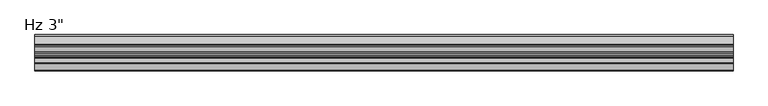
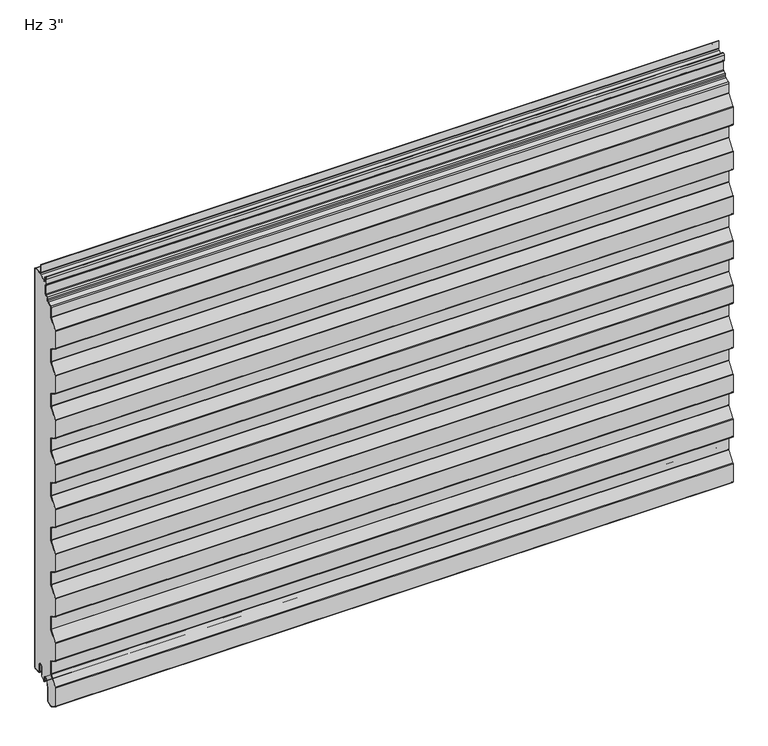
"""IFC4 building model written with IfcOpenShell, lengths in millimetres: plate geometry."""

from ifc_helpers import new_model, si_unit, point, frame, frame_2d, origin, place, context, project, spatial, polyline, circle_curve, trimmed, segment, composite_curve, outline, extrude, source, transform, mapped, element, save


def plate_2009270f(model_context):
    return source(origin(), model_context, "Body", "SweptSolid", [
        extrude(outline(composite_curve([segment(polyline([(-37.3245224, 911.6697098), (-37.0412567, 903.5993873), (-36.2417491, 903.6274498), (-36.0968783, 899.5000396), (-24.2495291, 911.9897647), (-2.3899344, 911.9897647)]), True, "CONTINUOUS"), segment(trimmed(circle_curve(frame_2d((-2.3899344, 910.4017685)), 1.5879962), [point((-2.3899344, 911.9897647))], [point((-0.8019381, 910.4017685))], False, "CARTESIAN"), True, "CONTINUOUS"), segment(polyline([(-0.8019381, 910.4017685), (-0.8019381, 2.3819944)]), True, "CONTINUOUS"), segment(trimmed(circle_curve(frame_2d((-2.3899344, 2.3819944)), 1.5879962), [point((-0.8019381, 2.3819944))], [point((-2.3899344, 0.7939981))], False, "CARTESIAN"), True, "CONTINUOUS"), segment(polyline([(-2.3899344, 0.7939981), (-15.0939043, 0.7939981)]), True, "CONTINUOUS"), segment(trimmed(circle_curve(frame_2d((-15.0939043, 2.3819944)), 1.5879962), [point((-15.0939043, 0.7939981))], [point((-16.6819006, 2.3819944))], False, "CARTESIAN"), True, "CONTINUOUS"), segment(polyline([(-16.6819006, 2.3819944), (-16.6819006, 18.2619569)]), True, "CONTINUOUS"), segment(trimmed(circle_curve(frame_2d((-21.4458893, 18.2619569)), 4.7639887), [point((-16.6819006, 18.2619569))], [point((-26.2098781, 18.2619569))], True, "CARTESIAN"), True, "CONTINUOUS"), segment(polyline([(-26.2098781, 18.2619569), (-26.2098781, -1.4125706), (-32.8499306, -8.4126539), (-33.420565, -7.8420194), (-33.9820065, -8.4034609)]), True, "CONTINUOUS"), segment(trimmed(circle_curve(frame_2d((-34.5434479, -7.8420194)), 0.7939981), [point((-33.9820065, -8.4034609))], [point((-35.3374461, -7.8420194))], False, "CARTESIAN"), True, "CONTINUOUS"), segment(polyline([(-35.3374461, -7.8420194), (-35.3374461, 0.2459424)]), True, "CONTINUOUS"), segment(trimmed(circle_curve(frame_2d((-38.4816786, 0.2459424)), 3.1442326), [point((-35.3374461, 0.2459424))], [point((-38.4816786, 3.3901749))], True, "CARTESIAN"), True, "CONTINUOUS"), segment(polyline([(-38.4816786, 3.3901749), (-41.1435342, 3.3901749)]), True, "CONTINUOUS"), segment(trimmed(circle_curve(frame_2d((-41.1435342, 0.2459424)), 3.1442326), [point((-41.1435342, 3.3901749))], [point((-44.1775993, 1.0709558))], True, "CARTESIAN"), True, "CONTINUOUS"), segment(polyline([(-44.1775993, 1.0709558), (-48.9305203, -16.4083609)]), True, "CONTINUOUS"), segment(trimmed(circle_curve(frame_2d((-45.8964552, -17.2333743)), 3.1442326), [point((-48.9305203, -16.4083609))], [point((-49.0406877, -17.2333743))], True, "CARTESIAN"), True, "CONTINUOUS"), segment(polyline([(-49.0406877, -17.2333743), (-49.0406877, -44.4184897)]), True, "CONTINUOUS"), segment(trimmed(circle_curve(frame_2d((-51.4226821, -44.4184897)), 2.3819944), [point((-49.0406877, -44.4184897))], [point((-50.6079921, -46.6568323))], False, "CARTESIAN"), True, "CONTINUOUS"), segment(polyline([(-50.6079921, -46.6568323), (-59.4675857, -49.8814606)]), True, "CONTINUOUS"), segment(trimmed(circle_curve(frame_2d((-60.2822757, -47.6431181)), 2.3819944), [point((-59.4675857, -49.8814606))], [point((-61.5078017, -49.6856614))], False, "CARTESIAN"), True, "CONTINUOUS"), segment(polyline([(-61.5078017, -49.6856614), (-74.6290211, -41.8129298)]), True, "CONTINUOUS"), segment(trimmed(circle_curve(frame_2d((-73.8120038, -40.4512342)), 1.5879962), [point((-74.6290211, -41.8129298))], [point((-75.4, -40.4512342))], False, "CARTESIAN"), True, "CONTINUOUS"), segment(polyline([(-75.4, -40.4512342), (-75.4, 0.3073137)]), True, "CONTINUOUS"), segment(trimmed(circle_curve(frame_2d((-73.8120038, 0.3073137)), 1.5879962), [point((-75.4, 0.3073137))], [point((-75.1042095, 1.2303177))], False, "CARTESIAN"), True, "CONTINUOUS"), segment(polyline([(-75.1042095, 1.2303177), (-59.9578075, 22.4352804)]), True, "CONTINUOUS"), segment(trimmed(circle_curve(frame_2d((-61.870272, 23.8013265)), 2.3502344), [point((-59.9578075, 22.4352804))], [point((-59.5200375, 23.8013265))], True, "CARTESIAN"), True, "CONTINUOUS"), segment(polyline([(-59.5200375, 23.8013265), (-59.5200375, 50.9772534)]), True, "CONTINUOUS"), segment(trimmed(circle_curve(frame_2d((-61.870272, 50.9772534)), 2.3502344), [point((-59.5200375, 50.9772534))], [point((-60.6610863, 52.9925629))], True, "CARTESIAN"), True, "CONTINUOUS"), segment(polyline([(-60.6610863, 52.9925629), (-74.6290211, 61.3733237)]), True, "CONTINUOUS"), segment(trimmed(circle_curve(frame_2d((-73.8120038, 62.7350193)), 1.5879962), [point((-74.6290211, 61.3733237))], [point((-75.4, 62.7350193))], False, "CARTESIAN"), True, "CONTINUOUS"), segment(polyline([(-75.4, 62.7350193), (-75.4, 101.9390736)]), True, "CONTINUOUS"), segment(trimmed(circle_curve(frame_2d((-73.8120038, 101.9390736)), 1.5879962), [point((-75.4, 101.9390736))], [point((-75.1042095, 102.8620777))], False, "CARTESIAN"), True, "CONTINUOUS"), segment(polyline([(-75.1042095, 102.8620777), (-59.9578075, 124.0670404)]), True, "CONTINUOUS"), segment(trimmed(circle_curve(frame_2d((-61.870272, 125.4330864)), 2.3502344), [point((-59.9578075, 124.0670404))], [point((-59.5200375, 125.4330864))], True, "CARTESIAN"), True, "CONTINUOUS"), segment(polyline([(-59.5200375, 125.4330864), (-59.5200375, 152.6090134)]), True, "CONTINUOUS"), segment(trimmed(circle_curve(frame_2d((-61.870272, 152.6090134)), 2.3502344), [point((-59.5200375, 152.6090134))], [point((-60.6610863, 154.6243228))], True, "CARTESIAN"), True, "CONTINUOUS"), segment(polyline([(-60.6610863, 154.6243228), (-74.6290211, 163.0050836)]), True, "CONTINUOUS"), segment(trimmed(circle_curve(frame_2d((-73.8120038, 164.3667792)), 1.5879962), [point((-74.6290211, 163.0050836))], [point((-75.4, 164.3667792))], False, "CARTESIAN"), True, "CONTINUOUS"), segment(polyline([(-75.4, 164.3667792), (-75.4, 203.5708335)]), True, "CONTINUOUS"), segment(trimmed(circle_curve(frame_2d((-73.8120038, 203.5708335)), 1.5879962), [point((-75.4, 203.5708335))], [point((-75.1042095, 204.4938376))], False, "CARTESIAN"), True, "CONTINUOUS"), segment(polyline([(-75.1042095, 204.4938376), (-59.9578075, 225.6988003)]), True, "CONTINUOUS"), segment(trimmed(circle_curve(frame_2d((-61.870272, 227.0648463)), 2.3502344), [point((-59.9578075, 225.6988003))], [point((-59.5200375, 227.0648463))], True, "CARTESIAN"), True, "CONTINUOUS"), segment(polyline([(-59.5200375, 227.0648463), (-59.5200375, 254.2407733)]), True, "CONTINUOUS"), segment(trimmed(circle_curve(frame_2d((-61.870272, 254.2407733)), 2.3502344), [point((-59.5200375, 254.2407733))], [point((-60.6610863, 256.2560827))], True, "CARTESIAN"), True, "CONTINUOUS"), segment(polyline([(-60.6610863, 256.2560827), (-74.6290211, 264.6368436)]), True, "CONTINUOUS"), segment(trimmed(circle_curve(frame_2d((-73.8120038, 265.9985391)), 1.5879962), [point((-74.6290211, 264.6368436))], [point((-75.4, 265.9985391))], False, "CARTESIAN"), True, "CONTINUOUS"), segment(polyline([(-75.4, 265.9985391), (-75.4, 305.2025934)]), True, "CONTINUOUS"), segment(trimmed(circle_curve(frame_2d((-73.8120038, 305.2025934)), 1.5879962), [point((-75.4, 305.2025934))], [point((-75.1042095, 306.1255975))], False, "CARTESIAN"), True, "CONTINUOUS"), segment(polyline([(-75.1042095, 306.1255975), (-59.9578075, 327.3305602)]), True, "CONTINUOUS"), segment(trimmed(circle_curve(frame_2d((-61.870272, 328.6966062)), 2.3502344), [point((-59.9578075, 327.3305602))], [point((-59.5200375, 328.6966062))], True, "CARTESIAN"), True, "CONTINUOUS"), segment(polyline([(-59.5200375, 328.6966062), (-59.5200375, 355.8725332)]), True, "CONTINUOUS"), segment(trimmed(circle_curve(frame_2d((-61.870272, 355.8725332)), 2.3502344), [point((-59.5200375, 355.8725332))], [point((-60.6610863, 357.8878426))], True, "CARTESIAN"), True, "CONTINUOUS"), segment(polyline([(-60.6610863, 357.8878426), (-74.6290211, 366.2686035)]), True, "CONTINUOUS"), segment(trimmed(circle_curve(frame_2d((-73.8120038, 367.630299)), 1.5879962), [point((-74.6290211, 366.2686035))], [point((-75.4, 367.630299))], False, "CARTESIAN"), True, "CONTINUOUS"), segment(polyline([(-75.4, 367.630299), (-75.4, 406.8343534)]), True, "CONTINUOUS"), segment(trimmed(circle_curve(frame_2d((-73.8120038, 406.8343534)), 1.5879962), [point((-75.4, 406.8343534))], [point((-75.1042095, 407.7573574))], False, "CARTESIAN"), True, "CONTINUOUS"), segment(polyline([(-75.1042095, 407.7573574), (-59.9578075, 428.9623201)]), True, "CONTINUOUS"), segment(trimmed(circle_curve(frame_2d((-61.870272, 430.3283662)), 2.3502344), [point((-59.9578075, 428.9623201))], [point((-59.5200375, 430.3283662))], True, "CARTESIAN"), True, "CONTINUOUS"), segment(polyline([(-59.5200375, 430.3283662), (-59.5200375, 457.5042931)]), True, "CONTINUOUS"), segment(trimmed(circle_curve(frame_2d((-61.870272, 457.5042931)), 2.3502344), [point((-59.5200375, 457.5042931))], [point((-60.6610863, 459.5196026))], True, "CARTESIAN"), True, "CONTINUOUS"), segment(polyline([(-60.6610863, 459.5196026), (-74.6290211, 467.9003634)]), True, "CONTINUOUS"), segment(trimmed(circle_curve(frame_2d((-73.8120038, 469.262059)), 1.5879962), [point((-74.6290211, 467.9003634))], [point((-75.4, 469.262059))], False, "CARTESIAN"), True, "CONTINUOUS"), segment(polyline([(-75.4, 469.262059), (-75.4, 508.4661133)]), True, "CONTINUOUS"), segment(trimmed(circle_curve(frame_2d((-73.8120038, 508.4661133)), 1.5879962), [point((-75.4, 508.4661133))], [point((-75.1042095, 509.3891174))], False, "CARTESIAN"), True, "CONTINUOUS"), segment(polyline([(-75.1042095, 509.3891174), (-59.9578075, 530.5940801)]), True, "CONTINUOUS"), segment(trimmed(circle_curve(frame_2d((-61.870272, 531.9601261)), 2.3502344), [point((-59.9578075, 530.5940801))], [point((-59.5200375, 531.9601261))], True, "CARTESIAN"), True, "CONTINUOUS"), segment(polyline([(-59.5200375, 531.9601261), (-59.5200375, 559.1360531)]), True, "CONTINUOUS"), segment(trimmed(circle_curve(frame_2d((-61.870272, 559.1360531)), 2.3502344), [point((-59.5200375, 559.1360531))], [point((-60.6610863, 561.1513625))], True, "CARTESIAN"), True, "CONTINUOUS"), segment(polyline([(-60.6610863, 561.1513625), (-74.6290211, 569.5321233)]), True, "CONTINUOUS"), segment(trimmed(circle_curve(frame_2d((-73.8120038, 570.8938189)), 1.5879962), [point((-74.6290211, 569.5321233))], [point((-75.4, 570.8938189))], False, "CARTESIAN"), True, "CONTINUOUS"), segment(polyline([(-75.4, 570.8938189), (-75.4, 610.0978732)]), True, "CONTINUOUS"), segment(trimmed(circle_curve(frame_2d((-73.8120038, 610.0978732)), 1.5879962), [point((-75.4, 610.0978732))], [point((-75.1042095, 611.0208773))], False, "CARTESIAN"), True, "CONTINUOUS"), segment(polyline([(-75.1042095, 611.0208773), (-59.9578075, 632.22584)]), True, "CONTINUOUS"), segment(trimmed(circle_curve(frame_2d((-61.870272, 633.591886)), 2.3502344), [point((-59.9578075, 632.22584))], [point((-59.5200375, 633.591886))], True, "CARTESIAN"), True, "CONTINUOUS"), segment(polyline([(-59.5200375, 633.591886), (-59.5200375, 660.767813)]), True, "CONTINUOUS"), segment(trimmed(circle_curve(frame_2d((-61.870272, 660.767813)), 2.3502344), [point((-59.5200375, 660.767813))], [point((-60.6610863, 662.7831224))], True, "CARTESIAN"), True, "CONTINUOUS"), segment(polyline([(-60.6610863, 662.7831224), (-74.6290211, 671.1638833)]), True, "CONTINUOUS"), segment(trimmed(circle_curve(frame_2d((-73.8120038, 672.5255788)), 1.5879962), [point((-74.6290211, 671.1638833))], [point((-75.4, 672.5255788))], False, "CARTESIAN"), True, "CONTINUOUS"), segment(polyline([(-75.4, 672.5255788), (-75.4, 711.7296331)]), True, "CONTINUOUS"), segment(trimmed(circle_curve(frame_2d((-73.8120038, 711.7296331)), 1.5879962), [point((-75.4, 711.7296331))], [point((-75.1042095, 712.6526372))], False, "CARTESIAN"), True, "CONTINUOUS"), segment(polyline([(-75.1042095, 712.6526372), (-59.9578075, 733.8575999)]), True, "CONTINUOUS"), segment(trimmed(circle_curve(frame_2d((-61.870272, 735.2236459)), 2.3502344), [point((-59.9578075, 733.8575999))], [point((-59.5200375, 735.2236459))], True, "CARTESIAN"), True, "CONTINUOUS"), segment(polyline([(-59.5200375, 735.2236459), (-59.5200375, 762.3995729)]), True, "CONTINUOUS"), segment(trimmed(circle_curve(frame_2d((-61.870272, 762.3995729)), 2.3502344), [point((-59.5200375, 762.3995729))], [point((-60.6610863, 764.4148823))], True, "CARTESIAN"), True, "CONTINUOUS"), segment(polyline([(-60.6610863, 764.4148823), (-74.6290211, 772.7956432)]), True, "CONTINUOUS"), segment(trimmed(circle_curve(frame_2d((-73.8120038, 774.1573387)), 1.5879962), [point((-74.6290211, 772.7956432))], [point((-75.4, 774.1573387))], False, "CARTESIAN"), True, "CONTINUOUS"), segment(polyline([(-75.4, 774.1573387), (-75.4, 813.3613931)]), True, "CONTINUOUS"), segment(trimmed(circle_curve(frame_2d((-73.8120038, 813.3613931)), 1.5879962), [point((-75.4, 813.3613931))], [point((-75.1042095, 814.2843971))], False, "CARTESIAN"), True, "CONTINUOUS"), segment(polyline([(-75.1042095, 814.2843971), (-59.9578075, 835.4893598)]), True, "CONTINUOUS"), segment(trimmed(circle_curve(frame_2d((-61.870272, 836.8554059)), 2.3502344), [point((-59.9578075, 835.4893598))], [point((-59.5200375, 836.8554059))], True, "CARTESIAN"), True, "CONTINUOUS"), segment(polyline([(-59.5200375, 836.8554059), (-59.5200375, 857.6546355)]), True, "CONTINUOUS"), segment(trimmed(circle_curve(frame_2d((-57.1380431, 857.6546355)), 2.3819944), [point((-59.5200375, 857.6546355))], [point((-57.9527332, 859.892978))], False, "CARTESIAN"), True, "CONTINUOUS"), segment(polyline([(-57.9527332, 859.892978), (-48.5789402, 863.3047597)]), True, "CONTINUOUS"), segment(trimmed(circle_curve(frame_2d((-49.6543311, 866.2593718)), 3.1442326), [point((-48.5789402, 863.3047597))], [point((-46.5100985, 866.2593718))], True, "CARTESIAN"), True, "CONTINUOUS"), segment(polyline([(-46.5100985, 866.2593718), (-46.5100985, 869.9236865)]), True, "CONTINUOUS"), segment(trimmed(circle_curve(frame_2d((-44.1281042, 869.9236865)), 2.3819944), [point((-46.5100985, 869.9236865))], [point((-45.276566, 872.0105341))], False, "CARTESIAN"), True, "CONTINUOUS"), segment(polyline([(-45.276566, 872.0105341), (-41.0668994, 874.3272542)]), True, "CONTINUOUS"), segment(trimmed(circle_curve(frame_2d((-42.5828691, 877.0818929)), 3.1442326), [point((-41.0668994, 874.3272542))], [point((-39.4386365, 877.0818929))], True, "CARTESIAN"), True, "CONTINUOUS"), segment(polyline([(-39.4386365, 877.0818929), (-39.4386365, 895.9639801)]), True, "CONTINUOUS"), segment(trimmed(circle_curve(frame_2d((-42.5828691, 895.9639801)), 3.1442326), [point((-39.4386365, 895.9639801))], [point((-40.9454628, 898.6482117))], True, "CARTESIAN"), True, "CONTINUOUS"), segment(trimmed(circle_curve(frame_2d((-39.7050035, 900.6817205)), 2.3819944), [point((-40.9454628, 898.6482117))], [point((-42.0869979, 900.6817205))], False, "CARTESIAN"), True, "CONTINUOUS"), segment(polyline([(-42.0869979, 900.6817205), (-42.0869979, 911.5711285)]), True, "CONTINUOUS"), segment(trimmed(circle_curve(frame_2d((-39.7050509, 911.586154)), 2.3819944), [point((-42.0869979, 911.5711285))], [point((-39.7050509, 913.9681484))], False, "CARTESIAN"), True, "CONTINUOUS"), segment(trimmed(circle_curve(frame_2d((-39.7050509, 911.586154)), 2.3819944), [point((-39.7050509, 913.9681484))], [point((-37.3245224, 911.6697098))], False, "CARTESIAN"), True, "CONTINUOUS")], self_intersect=False)), frame((-730.0, 0.0, 0.0), z_axis=(1.0, 0.0, 0.0), x_axis=(0.0, 1.0, 0.0)), (0.0, 0.0, 1.0), 1460.0),
        extrude(outline(composite_curve([segment(polyline([(-21.8349484, 914.3717591), (-21.8349484, 931.8397178), (-21.0409503, 931.8397178), (-21.0409503, 914.3717591)]), True, "CONTINUOUS"), segment(trimmed(circle_curve(frame_2d((-19.452954, 914.3717591)), 1.5879962), [point((-21.0409503, 914.3717591))], [point((-19.452954, 912.7837628))], True, "CARTESIAN"), True, "CONTINUOUS"), segment(polyline([(-19.452954, 912.7837628), (-2.3819944, 912.7837628)]), True, "CONTINUOUS"), segment(trimmed(circle_curve(frame_2d((-2.3819944, 910.4017685)), 2.3819944), [point((-2.3819944, 912.7837628))], [point((0.0, 910.4017685))], False, "CARTESIAN"), True, "CONTINUOUS"), segment(polyline([(0.0, 910.4017685), (0.0, 2.3819944)]), True, "CONTINUOUS"), segment(trimmed(circle_curve(frame_2d((-2.3819944, 2.3819944)), 2.3819944), [point((0.0, 2.3819944))], [point((-2.3819944, 0.0))], False, "CARTESIAN"), True, "CONTINUOUS"), segment(polyline([(-2.3819944, 0.0), (-15.0859644, 0.0)]), True, "CONTINUOUS"), segment(trimmed(circle_curve(frame_2d((-15.0859644, 2.3819944)), 2.3819944), [point((-15.0859644, 0.0))], [point((-17.4679587, 2.3819944))], False, "CARTESIAN"), True, "CONTINUOUS"), segment(polyline([(-17.4679587, 2.3819944), (-17.4679587, 18.2619569)]), True, "CONTINUOUS"), segment(trimmed(circle_curve(frame_2d((-21.4379494, 18.2619569)), 3.9699906), [point((-17.4679587, 18.2619569))], [point((-25.40794, 18.2619569))], True, "CARTESIAN"), True, "CONTINUOUS"), segment(polyline([(-25.40794, 18.2619569), (-25.40794, 0.0), (-26.2019381, 0.0), (-26.2019381, 18.2619569)]), True, "CONTINUOUS"), segment(trimmed(circle_curve(frame_2d((-21.4379494, 18.2619569)), 4.7639887), [point((-26.2019381, 18.2619569))], [point((-16.6739606, 18.2619569))], False, "CARTESIAN"), True, "CONTINUOUS"), segment(polyline([(-16.6739606, 18.2619569), (-16.6739606, 2.3819944)]), True, "CONTINUOUS"), segment(trimmed(circle_curve(frame_2d((-15.0859644, 2.3819944)), 1.5879962), [point((-16.6739606, 2.3819944))], [point((-15.0859644, 0.7939981))], True, "CARTESIAN"), True, "CONTINUOUS"), segment(polyline([(-15.0859644, 0.7939981), (-2.3819944, 0.7939981)]), True, "CONTINUOUS"), segment(trimmed(circle_curve(frame_2d((-2.3819944, 2.3819944)), 1.5879962), [point((-2.3819944, 0.7939981))], [point((-0.7939981, 2.3819944))], True, "CARTESIAN"), True, "CONTINUOUS"), segment(polyline([(-0.7939981, 2.3819944), (-0.7939981, 910.4017685)]), True, "CONTINUOUS"), segment(trimmed(circle_curve(frame_2d((-2.3819944, 910.4017685)), 1.5879962), [point((-0.7939981, 910.4017685))], [point((-2.3819944, 911.9897647))], True, "CARTESIAN"), True, "CONTINUOUS"), segment(polyline([(-2.3819944, 911.9897647), (-19.452954, 911.9897647)]), True, "CONTINUOUS"), segment(trimmed(circle_curve(frame_2d((-19.452954, 914.3717591)), 2.3819944), [point((-19.452954, 911.9897647))], [point((-21.8349484, 914.3717591))], False, "CARTESIAN"), True, "CONTINUOUS")], self_intersect=False)), frame((-730.0, 0.0, 0.0), z_axis=(1.0, 0.0, 0.0), x_axis=(0.0, 1.0, 0.0)), (0.0, 0.0, 1.0), 1460.0),
        extrude(outline(composite_curve([segment(trimmed(circle_curve(frame_2d((-39.7050509, 911.586154)), 2.3819944), [point((-37.3245224, 911.6697098))], [point((-39.7050509, 913.9681484))], True, "CARTESIAN"), True, "CONTINUOUS"), segment(trimmed(circle_curve(frame_2d((-39.7050509, 911.586154)), 2.3819944), [point((-39.7050509, 913.9681484))], [point((-42.0869979, 911.5711285))], True, "CARTESIAN"), True, "CONTINUOUS"), segment(polyline([(-42.0869979, 911.5711285), (-42.0869979, 900.6817205)]), True, "CONTINUOUS"), segment(trimmed(circle_curve(frame_2d((-39.7050035, 900.6817205)), 2.3819944), [point((-42.0869979, 900.6817205))], [point((-40.9454628, 898.6482117))], True, "CARTESIAN"), True, "CONTINUOUS"), segment(trimmed(circle_curve(frame_2d((-42.5828691, 895.9639801)), 3.1442326), [point((-40.9454628, 898.6482117))], [point((-39.4386365, 895.9639801))], False, "CARTESIAN"), True, "CONTINUOUS"), segment(polyline([(-39.4386365, 895.9639801), (-39.4386365, 877.0818929)]), True, "CONTINUOUS"), segment(trimmed(circle_curve(frame_2d((-42.5828691, 877.0818929)), 3.1442326), [point((-39.4386365, 877.0818929))], [point((-41.0668994, 874.3272542))], False, "CARTESIAN"), True, "CONTINUOUS"), segment(polyline([(-41.0668994, 874.3272542), (-45.276566, 872.0105341)]), True, "CONTINUOUS"), segment(trimmed(circle_curve(frame_2d((-44.1281042, 869.9236865)), 2.3819944), [point((-45.276566, 872.0105341))], [point((-46.5100985, 869.9236865))], True, "CARTESIAN"), True, "CONTINUOUS"), segment(polyline([(-46.5100985, 869.9236865), (-46.5100985, 866.2593718)]), True, "CONTINUOUS"), segment(trimmed(circle_curve(frame_2d((-49.6543311, 866.2593718)), 3.1442326), [point((-46.5100985, 866.2593718))], [point((-48.5789402, 863.3047597))], False, "CARTESIAN"), True, "CONTINUOUS"), segment(polyline([(-48.5789402, 863.3047597), (-57.9527332, 859.892978)]), True, "CONTINUOUS"), segment(trimmed(circle_curve(frame_2d((-57.1380431, 857.6546355)), 2.3819944), [point((-57.9527332, 859.892978))], [point((-59.5200375, 857.6546355))], True, "CARTESIAN"), True, "CONTINUOUS"), segment(polyline([(-59.5200375, 857.6546355), (-59.5200375, 836.8554059)]), True, "CONTINUOUS"), segment(trimmed(circle_curve(frame_2d((-61.870272, 836.8554059)), 2.3502344), [point((-59.5200375, 836.8554059))], [point((-59.9578075, 835.4893598))], False, "CARTESIAN"), True, "CONTINUOUS"), segment(polyline([(-59.9578075, 835.4893598), (-75.1042095, 814.2843971)]), True, "CONTINUOUS"), segment(trimmed(circle_curve(frame_2d((-73.8120038, 813.3613931)), 1.5879962), [point((-75.1042095, 814.2843971))], [point((-75.4, 813.3613931))], True, "CARTESIAN"), True, "CONTINUOUS"), segment(polyline([(-75.4, 813.3613931), (-75.4, 774.1573387)]), True, "CONTINUOUS"), segment(trimmed(circle_curve(frame_2d((-73.8120038, 774.1573387)), 1.5879962), [point((-75.4, 774.1573387))], [point((-74.6290211, 772.7956432))], True, "CARTESIAN"), True, "CONTINUOUS"), segment(polyline([(-74.6290211, 772.7956432), (-60.6610863, 764.4148823)]), True, "CONTINUOUS"), segment(trimmed(circle_curve(frame_2d((-61.870272, 762.3995729)), 2.3502344), [point((-60.6610863, 764.4148823))], [point((-59.5200375, 762.3995729))], False, "CARTESIAN"), True, "CONTINUOUS"), segment(polyline([(-59.5200375, 762.3995729), (-59.5200375, 735.2236459)]), True, "CONTINUOUS"), segment(trimmed(circle_curve(frame_2d((-61.870272, 735.2236459)), 2.3502344), [point((-59.5200375, 735.2236459))], [point((-59.9578075, 733.8575999))], False, "CARTESIAN"), True, "CONTINUOUS"), segment(polyline([(-59.9578075, 733.8575999), (-75.1042095, 712.6526372)]), True, "CONTINUOUS"), segment(trimmed(circle_curve(frame_2d((-73.8120038, 711.7296331)), 1.5879962), [point((-75.1042095, 712.6526372))], [point((-75.4, 711.7296331))], True, "CARTESIAN"), True, "CONTINUOUS"), segment(polyline([(-75.4, 711.7296331), (-75.4, 672.5255788)]), True, "CONTINUOUS"), segment(trimmed(circle_curve(frame_2d((-73.8120038, 672.5255788)), 1.5879962), [point((-75.4, 672.5255788))], [point((-74.6290211, 671.1638833))], True, "CARTESIAN"), True, "CONTINUOUS"), segment(polyline([(-74.6290211, 671.1638833), (-60.6610863, 662.7831224)]), True, "CONTINUOUS"), segment(trimmed(circle_curve(frame_2d((-61.870272, 660.767813)), 2.3502344), [point((-60.6610863, 662.7831224))], [point((-59.5200375, 660.767813))], False, "CARTESIAN"), True, "CONTINUOUS"), segment(polyline([(-59.5200375, 660.767813), (-59.5200375, 633.591886)]), True, "CONTINUOUS"), segment(trimmed(circle_curve(frame_2d((-61.870272, 633.591886)), 2.3502344), [point((-59.5200375, 633.591886))], [point((-59.9578075, 632.22584))], False, "CARTESIAN"), True, "CONTINUOUS"), segment(polyline([(-59.9578075, 632.22584), (-75.1042095, 611.0208773)]), True, "CONTINUOUS"), segment(trimmed(circle_curve(frame_2d((-73.8120038, 610.0978732)), 1.5879962), [point((-75.1042095, 611.0208773))], [point((-75.4, 610.0978732))], True, "CARTESIAN"), True, "CONTINUOUS"), segment(polyline([(-75.4, 610.0978732), (-75.4, 570.8938189)]), True, "CONTINUOUS"), segment(trimmed(circle_curve(frame_2d((-73.8120038, 570.8938189)), 1.5879962), [point((-75.4, 570.8938189))], [point((-74.6290211, 569.5321233))], True, "CARTESIAN"), True, "CONTINUOUS"), segment(polyline([(-74.6290211, 569.5321233), (-60.6610863, 561.1513625)]), True, "CONTINUOUS"), segment(trimmed(circle_curve(frame_2d((-61.870272, 559.1360531)), 2.3502344), [point((-60.6610863, 561.1513625))], [point((-59.5200375, 559.1360531))], False, "CARTESIAN"), True, "CONTINUOUS"), segment(polyline([(-59.5200375, 559.1360531), (-59.5200375, 531.9601261)]), True, "CONTINUOUS"), segment(trimmed(circle_curve(frame_2d((-61.870272, 531.9601261)), 2.3502344), [point((-59.5200375, 531.9601261))], [point((-59.9578075, 530.5940801))], False, "CARTESIAN"), True, "CONTINUOUS"), segment(polyline([(-59.9578075, 530.5940801), (-75.1042095, 509.3891174)]), True, "CONTINUOUS"), segment(trimmed(circle_curve(frame_2d((-73.8120038, 508.4661133)), 1.5879962), [point((-75.1042095, 509.3891174))], [point((-75.4, 508.4661133))], True, "CARTESIAN"), True, "CONTINUOUS"), segment(polyline([(-75.4, 508.4661133), (-75.4, 469.262059)]), True, "CONTINUOUS"), segment(trimmed(circle_curve(frame_2d((-73.8120038, 469.262059)), 1.5879962), [point((-75.4, 469.262059))], [point((-74.6290211, 467.9003634))], True, "CARTESIAN"), True, "CONTINUOUS"), segment(polyline([(-74.6290211, 467.9003634), (-60.6610863, 459.5196026)]), True, "CONTINUOUS"), segment(trimmed(circle_curve(frame_2d((-61.870272, 457.5042931)), 2.3502344), [point((-60.6610863, 459.5196026))], [point((-59.5200375, 457.5042931))], False, "CARTESIAN"), True, "CONTINUOUS"), segment(polyline([(-59.5200375, 457.5042931), (-59.5200375, 430.3283662)]), True, "CONTINUOUS"), segment(trimmed(circle_curve(frame_2d((-61.870272, 430.3283662)), 2.3502344), [point((-59.5200375, 430.3283662))], [point((-59.9578075, 428.9623201))], False, "CARTESIAN"), True, "CONTINUOUS"), segment(polyline([(-59.9578075, 428.9623201), (-75.1042095, 407.7573574)]), True, "CONTINUOUS"), segment(trimmed(circle_curve(frame_2d((-73.8120038, 406.8343534)), 1.5879962), [point((-75.1042095, 407.7573574))], [point((-75.4, 406.8343534))], True, "CARTESIAN"), True, "CONTINUOUS"), segment(polyline([(-75.4, 406.8343534), (-75.4, 367.630299)]), True, "CONTINUOUS"), segment(trimmed(circle_curve(frame_2d((-73.8120038, 367.630299)), 1.5879962), [point((-75.4, 367.630299))], [point((-74.6290211, 366.2686035))], True, "CARTESIAN"), True, "CONTINUOUS"), segment(polyline([(-74.6290211, 366.2686035), (-60.6610863, 357.8878426)]), True, "CONTINUOUS"), segment(trimmed(circle_curve(frame_2d((-61.870272, 355.8725332)), 2.3502344), [point((-60.6610863, 357.8878426))], [point((-59.5200375, 355.8725332))], False, "CARTESIAN"), True, "CONTINUOUS"), segment(polyline([(-59.5200375, 355.8725332), (-59.5200375, 328.6966062)]), True, "CONTINUOUS"), segment(trimmed(circle_curve(frame_2d((-61.870272, 328.6966062)), 2.3502344), [point((-59.5200375, 328.6966062))], [point((-59.9578075, 327.3305602))], False, "CARTESIAN"), True, "CONTINUOUS"), segment(polyline([(-59.9578075, 327.3305602), (-75.1042095, 306.1255975)]), True, "CONTINUOUS"), segment(trimmed(circle_curve(frame_2d((-73.8120038, 305.2025934)), 1.5879962), [point((-75.1042095, 306.1255975))], [point((-75.4, 305.2025934))], True, "CARTESIAN"), True, "CONTINUOUS"), segment(polyline([(-75.4, 305.2025934), (-75.4, 265.9985391)]), True, "CONTINUOUS"), segment(trimmed(circle_curve(frame_2d((-73.8120038, 265.9985391)), 1.5879962), [point((-75.4, 265.9985391))], [point((-74.6290211, 264.6368436))], True, "CARTESIAN"), True, "CONTINUOUS"), segment(polyline([(-74.6290211, 264.6368436), (-60.6610863, 256.2560827)]), True, "CONTINUOUS"), segment(trimmed(circle_curve(frame_2d((-61.870272, 254.2407733)), 2.3502344), [point((-60.6610863, 256.2560827))], [point((-59.5200375, 254.2407733))], False, "CARTESIAN"), True, "CONTINUOUS"), segment(polyline([(-59.5200375, 254.2407733), (-59.5200375, 227.0648463)]), True, "CONTINUOUS"), segment(trimmed(circle_curve(frame_2d((-61.870272, 227.0648463)), 2.3502344), [point((-59.5200375, 227.0648463))], [point((-59.9578075, 225.6988003))], False, "CARTESIAN"), True, "CONTINUOUS"), segment(polyline([(-59.9578075, 225.6988003), (-75.1042095, 204.4938376)]), True, "CONTINUOUS"), segment(trimmed(circle_curve(frame_2d((-73.8120038, 203.5708335)), 1.5879962), [point((-75.1042095, 204.4938376))], [point((-75.4, 203.5708335))], True, "CARTESIAN"), True, "CONTINUOUS"), segment(polyline([(-75.4, 203.5708335), (-75.4, 164.3667792)]), True, "CONTINUOUS"), segment(trimmed(circle_curve(frame_2d((-73.8120038, 164.3667792)), 1.5879962), [point((-75.4, 164.3667792))], [point((-74.6290211, 163.0050836))], True, "CARTESIAN"), True, "CONTINUOUS"), segment(polyline([(-74.6290211, 163.0050836), (-60.6610863, 154.6243228)]), True, "CONTINUOUS"), segment(trimmed(circle_curve(frame_2d((-61.870272, 152.6090134)), 2.3502344), [point((-60.6610863, 154.6243228))], [point((-59.5200375, 152.6090134))], False, "CARTESIAN"), True, "CONTINUOUS"), segment(polyline([(-59.5200375, 152.6090134), (-59.5200375, 125.4330864)]), True, "CONTINUOUS"), segment(trimmed(circle_curve(frame_2d((-61.870272, 125.4330864)), 2.3502344), [point((-59.5200375, 125.4330864))], [point((-59.9578075, 124.0670404))], False, "CARTESIAN"), True, "CONTINUOUS"), segment(polyline([(-59.9578075, 124.0670404), (-75.1042095, 102.8620777)]), True, "CONTINUOUS"), segment(trimmed(circle_curve(frame_2d((-73.8120038, 101.9390736)), 1.5879962), [point((-75.1042095, 102.8620777))], [point((-75.4, 101.9390736))], True, "CARTESIAN"), True, "CONTINUOUS"), segment(polyline([(-75.4, 101.9390736), (-75.4, 62.7350193)]), True, "CONTINUOUS"), segment(trimmed(circle_curve(frame_2d((-73.8120038, 62.7350193)), 1.5879962), [point((-75.4, 62.7350193))], [point((-74.6290211, 61.3733237))], True, "CARTESIAN"), True, "CONTINUOUS"), segment(polyline([(-74.6290211, 61.3733237), (-60.6610863, 52.9925629)]), True, "CONTINUOUS"), segment(trimmed(circle_curve(frame_2d((-61.870272, 50.9772534)), 2.3502344), [point((-60.6610863, 52.9925629))], [point((-59.5200375, 50.9772534))], False, "CARTESIAN"), True, "CONTINUOUS"), segment(polyline([(-59.5200375, 50.9772534), (-59.5200375, 23.8013265)]), True, "CONTINUOUS"), segment(trimmed(circle_curve(frame_2d((-61.870272, 23.8013265)), 2.3502344), [point((-59.5200375, 23.8013265))], [point((-59.9578075, 22.4352804))], False, "CARTESIAN"), True, "CONTINUOUS"), segment(polyline([(-59.9578075, 22.4352804), (-75.1042095, 1.2303177)]), True, "CONTINUOUS"), segment(trimmed(circle_curve(frame_2d((-73.8120038, 0.3073137)), 1.5879962), [point((-75.1042095, 1.2303177))], [point((-75.4, 0.3073137))], True, "CARTESIAN"), True, "CONTINUOUS"), segment(polyline([(-75.4, 0.3073137), (-75.4, -40.4512342)]), True, "CONTINUOUS"), segment(trimmed(circle_curve(frame_2d((-73.8120038, -40.4512342)), 1.5879962), [point((-75.4, -40.4512342))], [point((-74.6290211, -41.8129298))], True, "CARTESIAN"), True, "CONTINUOUS"), segment(polyline([(-74.6290211, -41.8129298), (-61.5078017, -49.6856614)]), True, "CONTINUOUS"), segment(trimmed(circle_curve(frame_2d((-60.2822757, -47.6431181)), 2.3819944), [point((-61.5078017, -49.6856614))], [point((-59.4675857, -49.8814606))], True, "CARTESIAN"), True, "CONTINUOUS"), segment(polyline([(-59.4675857, -49.8814606), (-50.6079921, -46.6568323)]), True, "CONTINUOUS"), segment(trimmed(circle_curve(frame_2d((-51.4226821, -44.4184897)), 2.3819944), [point((-50.6079921, -46.6568323))], [point((-49.0406877, -44.4184897))], True, "CARTESIAN"), True, "CONTINUOUS"), segment(polyline([(-49.0406877, -44.4184897), (-49.0406877, -17.2333743)]), True, "CONTINUOUS"), segment(trimmed(circle_curve(frame_2d((-45.8964552, -17.2333743)), 3.1442326), [point((-49.0406877, -17.2333743))], [point((-48.9305203, -16.4083609))], False, "CARTESIAN"), True, "CONTINUOUS"), segment(polyline([(-48.9305203, -16.4083609), (-44.1775993, 1.0709558)]), True, "CONTINUOUS"), segment(trimmed(circle_curve(frame_2d((-41.1435342, 0.2459424)), 3.1442326), [point((-44.1775993, 1.0709558))], [point((-41.1435342, 3.3901749))], False, "CARTESIAN"), True, "CONTINUOUS"), segment(polyline([(-41.1435342, 3.3901749), (-38.4816786, 3.3901749)]), True, "CONTINUOUS"), segment(trimmed(circle_curve(frame_2d((-38.4816786, 0.2459424)), 3.1442326), [point((-38.4816786, 3.3901749))], [point((-35.3374461, 0.2459424))], False, "CARTESIAN"), True, "CONTINUOUS"), segment(polyline([(-35.3374461, 0.2459424), (-35.3374461, -7.9201444)]), True, "CONTINUOUS"), segment(trimmed(circle_curve(frame_2d((-34.5434479, -7.9201444)), 0.7939981), [point((-35.3374461, -7.9201444))], [point((-33.9820065, -8.4815859))], True, "CARTESIAN"), True, "CONTINUOUS"), segment(polyline([(-33.9820065, -8.4815859), (-33.420565, -7.9201444), (-32.8548796, -8.4858299), (-33.4163211, -9.0472713)]), True, "CONTINUOUS"), segment(trimmed(circle_curve(frame_2d((-34.5434479, -7.9201444)), 1.5939981), [point((-33.4163211, -9.0472713))], [point((-36.1374461, -7.9201444))], False, "CARTESIAN"), True, "CONTINUOUS"), segment(polyline([(-36.1374461, -7.9201444), (-36.1374461, 0.2459424)]), True, "CONTINUOUS"), segment(trimmed(circle_curve(frame_2d((-38.4816786, 0.2459424)), 2.3442326), [point((-36.1374461, 0.2459424))], [point((-38.4816786, 2.5901749))], True, "CARTESIAN"), True, "CONTINUOUS"), segment(polyline([(-38.4816786, 2.5901749), (-41.1435342, 2.5901749)]), True, "CONTINUOUS"), segment(trimmed(circle_curve(frame_2d((-41.1435342, 0.2459424)), 2.3442326), [point((-41.1435342, 2.5901749))], [point((-43.4056297, 0.8610443))], True, "CARTESIAN"), True, "CONTINUOUS"), segment(polyline([(-43.4056297, 0.8610443), (-48.2406877, -16.9203393), (-48.2406877, -44.4184897)]), True, "CONTINUOUS"), segment(trimmed(circle_curve(frame_2d((-51.4226821, -44.4184897)), 3.1819944), [point((-48.2406877, -44.4184897))], [point((-50.3343759, -47.4085864))], False, "CARTESIAN"), True, "CONTINUOUS"), segment(polyline([(-50.3343759, -47.4085864), (-59.1939695, -50.6332147)]), True, "CONTINUOUS"), segment(trimmed(circle_curve(frame_2d((-60.2822757, -47.6431181)), 3.1819944), [point((-59.1939695, -50.6332147))], [point((-61.9193983, -50.3716558))], False, "CARTESIAN"), True, "CONTINUOUS"), segment(polyline([(-61.9193983, -50.3716558), (-75.0406177, -42.4989241)]), True, "CONTINUOUS"), segment(trimmed(circle_curve(frame_2d((-73.8120038, -40.4512342)), 2.3879962), [point((-75.0406177, -42.4989241))], [point((-76.2, -40.4512342))], False, "CARTESIAN"), True, "CONTINUOUS"), segment(polyline([(-76.2, -40.4512342), (-76.2, 0.3073137)]), True, "CONTINUOUS"), segment(trimmed(circle_curve(frame_2d((-73.8120038, 0.3073137)), 2.3879962), [point((-76.2, 0.3073137))], [point((-75.7551962, 1.6953083))], False, "CARTESIAN"), True, "CONTINUOUS"), segment(polyline([(-75.7551962, 1.6953083), (-60.6087943, 22.900271)]), True, "CONTINUOUS"), segment(trimmed(circle_curve(frame_2d((-61.870272, 23.8013265)), 1.5502344), [point((-60.6087943, 22.900271))], [point((-60.3200375, 23.8013265))], True, "CARTESIAN"), True, "CONTINUOUS"), segment(polyline([(-60.3200375, 23.8013265), (-60.3200375, 50.9772534)]), True, "CONTINUOUS"), segment(trimmed(circle_curve(frame_2d((-61.870272, 50.9772534)), 1.5502344), [point((-60.3200375, 50.9772534))], [point((-61.0726829, 52.3065685))], True, "CARTESIAN"), True, "CONTINUOUS"), segment(polyline([(-61.0726829, 52.3065685), (-75.0406177, 60.6873294)]), True, "CONTINUOUS"), segment(trimmed(circle_curve(frame_2d((-73.8120038, 62.7350193)), 2.3879962), [point((-75.0406177, 60.6873294))], [point((-76.2, 62.7350193))], False, "CARTESIAN"), True, "CONTINUOUS"), segment(polyline([(-76.2, 62.7350193), (-76.2, 101.9390736)]), True, "CONTINUOUS"), segment(trimmed(circle_curve(frame_2d((-73.8120038, 101.9390736)), 2.3879962), [point((-76.2, 101.9390736))], [point((-75.7551962, 103.3270682))], False, "CARTESIAN"), True, "CONTINUOUS"), segment(polyline([(-75.7551962, 103.3270682), (-60.6087943, 124.5320309)]), True, "CONTINUOUS"), segment(trimmed(circle_curve(frame_2d((-61.870272, 125.4330864)), 1.5502344), [point((-60.6087943, 124.5320309))], [point((-60.3200375, 125.4330864))], True, "CARTESIAN"), True, "CONTINUOUS"), segment(polyline([(-60.3200375, 125.4330864), (-60.3200375, 152.6090134)]), True, "CONTINUOUS"), segment(trimmed(circle_curve(frame_2d((-61.870272, 152.6090134)), 1.5502344), [point((-60.3200375, 152.6090134))], [point((-61.0726829, 153.9383284))], True, "CARTESIAN"), True, "CONTINUOUS"), segment(polyline([(-61.0726829, 153.9383284), (-75.0406177, 162.3190893)]), True, "CONTINUOUS"), segment(trimmed(circle_curve(frame_2d((-73.8120038, 164.3667792)), 2.3879962), [point((-75.0406177, 162.3190893))], [point((-76.2, 164.3667792))], False, "CARTESIAN"), True, "CONTINUOUS"), segment(polyline([(-76.2, 164.3667792), (-76.2, 203.5708335)]), True, "CONTINUOUS"), segment(trimmed(circle_curve(frame_2d((-73.8120038, 203.5708335)), 2.3879962), [point((-76.2, 203.5708335))], [point((-75.7551962, 204.9588281))], False, "CARTESIAN"), True, "CONTINUOUS"), segment(polyline([(-75.7551962, 204.9588281), (-60.6087943, 226.1637908)]), True, "CONTINUOUS"), segment(trimmed(circle_curve(frame_2d((-61.870272, 227.0648463)), 1.5502344), [point((-60.6087943, 226.1637908))], [point((-60.3200375, 227.0648463))], True, "CARTESIAN"), True, "CONTINUOUS"), segment(polyline([(-60.3200375, 227.0648463), (-60.3200375, 254.2407733)]), True, "CONTINUOUS"), segment(trimmed(circle_curve(frame_2d((-61.870272, 254.2407733)), 1.5502344), [point((-60.3200375, 254.2407733))], [point((-61.0726829, 255.5700884))], True, "CARTESIAN"), True, "CONTINUOUS"), segment(polyline([(-61.0726829, 255.5700884), (-75.0406177, 263.9508492)]), True, "CONTINUOUS"), segment(trimmed(circle_curve(frame_2d((-73.8120038, 265.9985391)), 2.3879962), [point((-75.0406177, 263.9508492))], [point((-76.2, 265.9985391))], False, "CARTESIAN"), True, "CONTINUOUS"), segment(polyline([(-76.2, 265.9985391), (-76.2, 305.2025934)]), True, "CONTINUOUS"), segment(trimmed(circle_curve(frame_2d((-73.8120038, 305.2025934)), 2.3879962), [point((-76.2, 305.2025934))], [point((-75.7551962, 306.5905881))], False, "CARTESIAN"), True, "CONTINUOUS"), segment(polyline([(-75.7551962, 306.5905881), (-60.6087943, 327.7955508)]), True, "CONTINUOUS"), segment(trimmed(circle_curve(frame_2d((-61.870272, 328.6966062)), 1.5502344), [point((-60.6087943, 327.7955508))], [point((-60.3200375, 328.6966062))], True, "CARTESIAN"), True, "CONTINUOUS"), segment(polyline([(-60.3200375, 328.6966062), (-60.3200375, 355.8725332)]), True, "CONTINUOUS"), segment(trimmed(circle_curve(frame_2d((-61.870272, 355.8725332)), 1.5502344), [point((-60.3200375, 355.8725332))], [point((-61.0726829, 357.2018483))], True, "CARTESIAN"), True, "CONTINUOUS"), segment(polyline([(-61.0726829, 357.2018483), (-75.0406177, 365.5826092)]), True, "CONTINUOUS"), segment(trimmed(circle_curve(frame_2d((-73.8120038, 367.630299)), 2.3879962), [point((-75.0406177, 365.5826092))], [point((-76.2, 367.630299))], False, "CARTESIAN"), True, "CONTINUOUS"), segment(polyline([(-76.2, 367.630299), (-76.2, 406.8343534)]), True, "CONTINUOUS"), segment(trimmed(circle_curve(frame_2d((-73.8120038, 406.8343534)), 2.3879962), [point((-76.2, 406.8343534))], [point((-75.7551962, 408.222348))], False, "CARTESIAN"), True, "CONTINUOUS"), segment(polyline([(-75.7551962, 408.222348), (-60.6087943, 429.4273107)]), True, "CONTINUOUS"), segment(trimmed(circle_curve(frame_2d((-61.870272, 430.3283662)), 1.5502344), [point((-60.6087943, 429.4273107))], [point((-60.3200375, 430.3283662))], True, "CARTESIAN"), True, "CONTINUOUS"), segment(polyline([(-60.3200375, 430.3283662), (-60.3200375, 457.5042931)]), True, "CONTINUOUS"), segment(trimmed(circle_curve(frame_2d((-61.870272, 457.5042931)), 1.5502344), [point((-60.3200375, 457.5042931))], [point((-61.0726829, 458.8336082))], True, "CARTESIAN"), True, "CONTINUOUS"), segment(polyline([(-61.0726829, 458.8336082), (-75.0406177, 467.2143691)]), True, "CONTINUOUS"), segment(trimmed(circle_curve(frame_2d((-73.8120038, 469.262059)), 2.3879962), [point((-75.0406177, 467.2143691))], [point((-76.2, 469.262059))], False, "CARTESIAN"), True, "CONTINUOUS"), segment(polyline([(-76.2, 469.262059), (-76.2, 508.4661133)]), True, "CONTINUOUS"), segment(trimmed(circle_curve(frame_2d((-73.8120038, 508.4661133)), 2.3879962), [point((-76.2, 508.4661133))], [point((-75.7551962, 509.8541079))], False, "CARTESIAN"), True, "CONTINUOUS"), segment(polyline([(-75.7551962, 509.8541079), (-60.6087943, 531.0590706)]), True, "CONTINUOUS"), segment(trimmed(circle_curve(frame_2d((-61.870272, 531.9601261)), 1.5502344), [point((-60.6087943, 531.0590706))], [point((-60.3200375, 531.9601261))], True, "CARTESIAN"), True, "CONTINUOUS"), segment(polyline([(-60.3200375, 531.9601261), (-60.3200375, 559.1360531)]), True, "CONTINUOUS"), segment(trimmed(circle_curve(frame_2d((-61.870272, 559.1360531)), 1.5502344), [point((-60.3200375, 559.1360531))], [point((-61.0726829, 560.4653681))], True, "CARTESIAN"), True, "CONTINUOUS"), segment(polyline([(-61.0726829, 560.4653681), (-75.0406177, 568.846129)]), True, "CONTINUOUS"), segment(trimmed(circle_curve(frame_2d((-73.8120038, 570.8938189)), 2.3879962), [point((-75.0406177, 568.846129))], [point((-76.2, 570.8938189))], False, "CARTESIAN"), True, "CONTINUOUS"), segment(polyline([(-76.2, 570.8938189), (-76.2, 610.0978732)]), True, "CONTINUOUS"), segment(trimmed(circle_curve(frame_2d((-73.8120038, 610.0978732)), 2.3879962), [point((-76.2, 610.0978732))], [point((-75.7551962, 611.4858678))], False, "CARTESIAN"), True, "CONTINUOUS"), segment(polyline([(-75.7551962, 611.4858678), (-60.6087943, 632.6908305)]), True, "CONTINUOUS"), segment(trimmed(circle_curve(frame_2d((-61.870272, 633.591886)), 1.5502344), [point((-60.6087943, 632.6908305))], [point((-60.3200375, 633.591886))], True, "CARTESIAN"), True, "CONTINUOUS"), segment(polyline([(-60.3200375, 633.591886), (-60.3200375, 660.767813)]), True, "CONTINUOUS"), segment(trimmed(circle_curve(frame_2d((-61.870272, 660.767813)), 1.5502344), [point((-60.3200375, 660.767813))], [point((-61.0726829, 662.0971281))], True, "CARTESIAN"), True, "CONTINUOUS"), segment(polyline([(-61.0726829, 662.0971281), (-75.0406177, 670.4778889)]), True, "CONTINUOUS"), segment(trimmed(circle_curve(frame_2d((-73.8120038, 672.5255788)), 2.3879962), [point((-75.0406177, 670.4778889))], [point((-76.2, 672.5255788))], False, "CARTESIAN"), True, "CONTINUOUS"), segment(polyline([(-76.2, 672.5255788), (-76.2, 711.7296331)]), True, "CONTINUOUS"), segment(trimmed(circle_curve(frame_2d((-73.8120038, 711.7296331)), 2.3879962), [point((-76.2, 711.7296331))], [point((-75.7551962, 713.1176278))], False, "CARTESIAN"), True, "CONTINUOUS"), segment(polyline([(-75.7551962, 713.1176278), (-60.6087943, 734.3225905)]), True, "CONTINUOUS"), segment(trimmed(circle_curve(frame_2d((-61.870272, 735.2236459)), 1.5502344), [point((-60.6087943, 734.3225905))], [point((-60.3200375, 735.2236459))], True, "CARTESIAN"), True, "CONTINUOUS"), segment(polyline([(-60.3200375, 735.2236459), (-60.3200375, 762.3995729)]), True, "CONTINUOUS"), segment(trimmed(circle_curve(frame_2d((-61.870272, 762.3995729)), 1.5502344), [point((-60.3200375, 762.3995729))], [point((-61.0726829, 763.728888))], True, "CARTESIAN"), True, "CONTINUOUS"), segment(polyline([(-61.0726829, 763.728888), (-75.0406177, 772.1096489)]), True, "CONTINUOUS"), segment(trimmed(circle_curve(frame_2d((-73.8120038, 774.1573387)), 2.3879962), [point((-75.0406177, 772.1096489))], [point((-76.2, 774.1573387))], False, "CARTESIAN"), True, "CONTINUOUS"), segment(polyline([(-76.2, 774.1573387), (-76.2, 813.3613931)]), True, "CONTINUOUS"), segment(trimmed(circle_curve(frame_2d((-73.8120038, 813.3613931)), 2.3879962), [point((-76.2, 813.3613931))], [point((-75.7551962, 814.7493877))], False, "CARTESIAN"), True, "CONTINUOUS"), segment(polyline([(-75.7551962, 814.7493877), (-60.6087943, 835.9543504)]), True, "CONTINUOUS"), segment(trimmed(circle_curve(frame_2d((-61.870272, 836.8554059)), 1.5502344), [point((-60.6087943, 835.9543504))], [point((-60.3200375, 836.8554059))], True, "CARTESIAN"), True, "CONTINUOUS"), segment(polyline([(-60.3200375, 836.8554059), (-60.3200375, 857.6546355)]), True, "CONTINUOUS"), segment(trimmed(circle_curve(frame_2d((-57.1380431, 857.6546355)), 3.1819944), [point((-60.3200375, 857.6546355))], [point((-58.2263493, 860.6447321))], False, "CARTESIAN"), True, "CONTINUOUS"), segment(polyline([(-58.2263493, 860.6447321), (-48.8525564, 864.0565137)]), True, "CONTINUOUS"), segment(trimmed(circle_curve(frame_2d((-49.6543311, 866.2593718)), 2.3442326), [point((-48.8525564, 864.0565137))], [point((-47.3100985, 866.2593718))], True, "CARTESIAN"), True, "CONTINUOUS"), segment(polyline([(-47.3100985, 866.2593718), (-47.3100985, 869.9236865)]), True, "CONTINUOUS"), segment(trimmed(circle_curve(frame_2d((-44.1281042, 869.9236865)), 3.1819944), [point((-47.3100985, 869.9236865))], [point((-45.6622804, 872.7114081))], False, "CARTESIAN"), True, "CONTINUOUS"), segment(polyline([(-45.6622804, 872.7114081), (-41.4526138, 875.0281282)]), True, "CONTINUOUS"), segment(trimmed(circle_curve(frame_2d((-42.5828691, 877.0818929)), 2.3442326), [point((-41.4526138, 875.0281282))], [point((-40.2386365, 877.0818929))], True, "CARTESIAN"), True, "CONTINUOUS"), segment(polyline([(-40.2386365, 877.0818929), (-40.2386365, 895.9639801)]), True, "CONTINUOUS"), segment(trimmed(circle_curve(frame_2d((-42.5828691, 895.9639801)), 2.3442326), [point((-40.2386365, 895.9639801))], [point((-41.3620748, 897.9652516))], True, "CARTESIAN"), True, "CONTINUOUS"), segment(trimmed(circle_curve(frame_2d((-39.7050035, 900.6817205)), 3.1819944), [point((-41.3620748, 897.9652516))], [point((-42.8869979, 900.6817205))], False, "CARTESIAN"), True, "CONTINUOUS"), segment(polyline([(-42.8869979, 900.6817205), (-42.8869979, 911.5687877)]), True, "CONTINUOUS"), segment(trimmed(circle_curve(frame_2d((-39.7050509, 911.586154)), 3.1819944), [point((-42.8869979, 911.5687877))], [point((-39.7050509, 914.7681484))], False, "CARTESIAN"), True, "CONTINUOUS"), segment(trimmed(circle_curve(frame_2d((-39.7050509, 911.586154)), 3.1819944), [point((-39.7050509, 914.7681484))], [point((-36.5250148, 911.6977723))], False, "CARTESIAN"), True, "CONTINUOUS"), segment(polyline([(-36.5250148, 911.6977723), (-36.2417491, 903.6274498), (-37.0412567, 903.5993873), (-37.3245224, 911.6697098)]), True, "CONTINUOUS")], self_intersect=False)), frame((-730.0, 0.0, 0.0), z_axis=(1.0, 0.0, 0.0), x_axis=(0.0, 1.0, 0.0)), (0.0, 0.0, 1.0), 1460.0),
    ])


if __name__ == "__main__":
    model = new_model("IFC4")
    model_context = context("Model", 3, world=origin())
    ifc_project = project(units=[si_unit("LENGTHUNIT", "METRE", prefix="MILLI")], contexts=[model_context])
    site = spatial("IfcSite", under=ifc_project)
    building = spatial("IfcBuilding", under=site)
    placement = place(None, origin())
    plate_shape = plate_2009270f(model_context)
    element("IfcPlate", 1, ObjectType="KIP-36-Vale-R19-CP-Hz : Hz 3\"", at=placement, inside=building, context=model_context, shape_type="MappedRepresentation", body=[
        mapped(plate_shape, transform((0.0, 0.0, 0.0), x_axis=(1.0, 0.0, 0.0), y_axis=(0.0, 1.0, 0.0), z_axis=(0.0, 0.0, 1.0))),
    ])
    save(model, "model.ifc")
